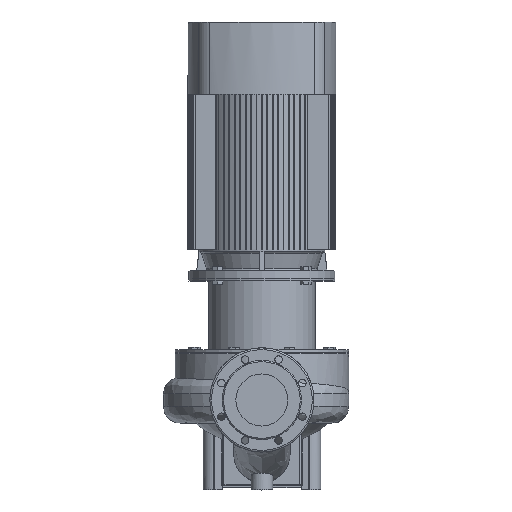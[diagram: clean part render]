
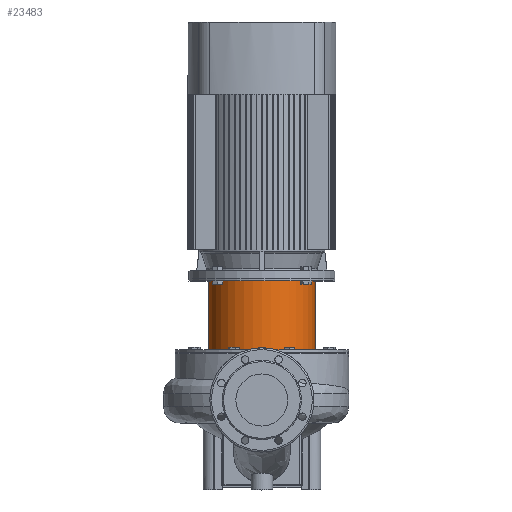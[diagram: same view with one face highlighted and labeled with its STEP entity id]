
A CAD part, top view. The second image highlights one B-rep face of the part: STEP entity #23483.
In plain terms, the highlighted cylindrical face has radius 128 mm (diameter 256 mm), a partial arc.
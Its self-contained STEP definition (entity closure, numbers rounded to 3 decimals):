
#1730 = VERTEX_POINT ( 'NONE', #30957 ) ;
#1849 = VERTEX_POINT ( 'NONE', #4870 ) ;
#1874 = CARTESIAN_POINT ( 'NONE',  ( 0., 0., -6. ) ) ;
#2489 = DIRECTION ( 'NONE',  ( 0., 0., 1. ) ) ;
#3967 = DIRECTION ( 'NONE',  ( 1., 0., 0. ) ) ;
#4870 = CARTESIAN_POINT ( 'NONE',  ( -128., 0., -6. ) ) ;
#5749 = VECTOR ( 'NONE', #2489, 1000. ) ;
#8210 = DIRECTION ( 'NONE',  ( 0., 0., 1. ) ) ;
#9958 = CARTESIAN_POINT ( 'NONE',  ( 128., 0., 14.36 ) ) ;
#11726 = DIRECTION ( 'NONE',  ( 0., 0., 1. ) ) ;
#12028 = LINE ( 'NONE', #9958, #5749 ) ;
#12846 = EDGE_CURVE ( 'NONE', #1730, #27617, #20247, .T. ) ;
#13856 = VERTEX_POINT ( 'NONE', #15429 ) ;
#15429 = CARTESIAN_POINT ( 'NONE',  ( 128., 0., -6. ) ) ;
#15996 = ORIENTED_EDGE ( 'NONE', *, *, #23856, .F. ) ;
#16033 = CYLINDRICAL_SURFACE ( 'NONE', #28294, 128. ) ;
#16499 = EDGE_CURVE ( 'NONE', #27617, #13856, #12028, .T. ) ;
#17114 = VECTOR ( 'NONE', #30815, 1000. ) ;
#17183 = AXIS2_PLACEMENT_3D ( 'NONE', #24611, #8210, #27140 ) ;
#17537 = AXIS2_PLACEMENT_3D ( 'NONE', #1874, #11726, #21435 ) ;
#18380 = ORIENTED_EDGE ( 'NONE', *, *, #16499, .T. ) ;
#18420 = CARTESIAN_POINT ( 'NONE',  ( 0., 0., 14.36 ) ) ;
#20247 = CIRCLE ( 'NONE', #17183, 128. ) ;
#20838 = FACE_OUTER_BOUND ( 'NONE', #22368, .T. ) ;
#20941 = EDGE_CURVE ( 'NONE', #1849, #13856, #29747, .T. ) ;
#21435 = DIRECTION ( 'NONE',  ( 1., 0., 0. ) ) ;
#22368 = EDGE_LOOP ( 'NONE', ( #15996, #26779, #18380, #27992 ) ) ;
#23483 = ADVANCED_FACE ( 'NONE', ( #20838 ), #16033, .T. ) ;
#23856 = EDGE_CURVE ( 'NONE', #1730, #1849, #28733, .T. ) ;
#23961 = CARTESIAN_POINT ( 'NONE',  ( -128., 0., 14.36 ) ) ;
#24295 = CARTESIAN_POINT ( 'NONE',  ( 128., 0., -171. ) ) ;
#24611 = CARTESIAN_POINT ( 'NONE',  ( 0., 0., -171. ) ) ;
#25756 = DIRECTION ( 'NONE',  ( 0., 0., 1. ) ) ;
#26779 = ORIENTED_EDGE ( 'NONE', *, *, #12846, .T. ) ;
#27140 = DIRECTION ( 'NONE',  ( 1., 0., 0. ) ) ;
#27617 = VERTEX_POINT ( 'NONE', #24295 ) ;
#27992 = ORIENTED_EDGE ( 'NONE', *, *, #20941, .F. ) ;
#28294 = AXIS2_PLACEMENT_3D ( 'NONE', #18420, #25756, #3967 ) ;
#28733 = LINE ( 'NONE', #23961, #17114 ) ;
#29747 = CIRCLE ( 'NONE', #17537, 128. ) ;
#30815 = DIRECTION ( 'NONE',  ( 0., 0., 1. ) ) ;
#30957 = CARTESIAN_POINT ( 'NONE',  ( -128., 0., -171. ) ) ;
